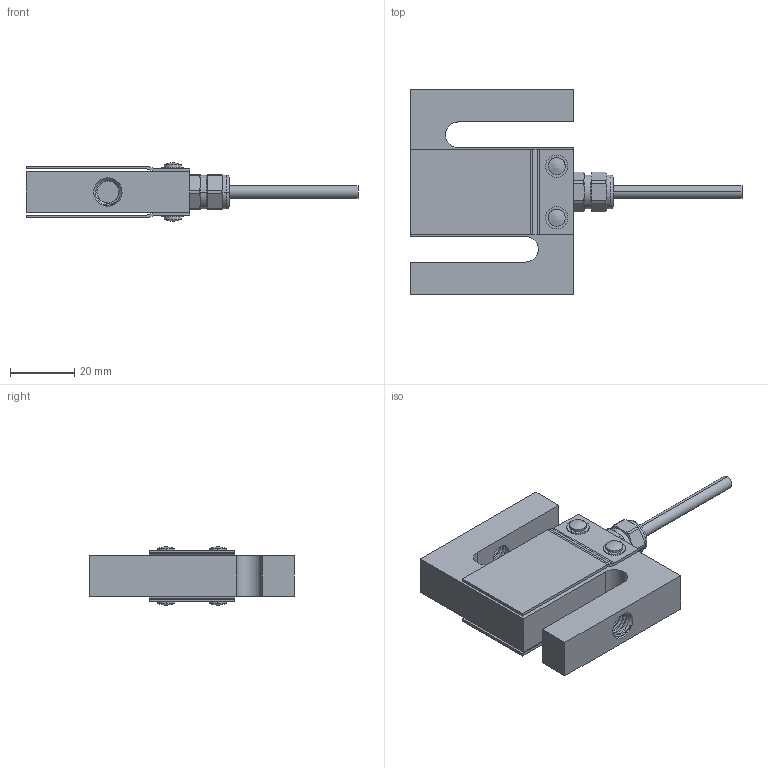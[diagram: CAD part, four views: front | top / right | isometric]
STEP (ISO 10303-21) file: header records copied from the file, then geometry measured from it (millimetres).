
FILE_DESCRIPTION (( 'STEP AP203' ), '1' );
FILE_NAME ('LCS09.STEP', '2024-11-28T08:20:47', ( '' ), ( '' ), 'SwSTEP 2.0', 'SolidWorks 2019', '' );
FILE_SCHEMA (( 'CONFIG_CONTROL_DESIGN' ));
Length unit declared in the file: millimetre
Products named in the file (1): LCS09
Bounding box: 103 x 63.5 x 18.15 mm (x, y, z)
Volume: 36478.7 mm3; surface area: 17530.8 mm2
Topology: 4 solids, 4 shells, 157 faces, 403 edges, 264 vertices
Faces by surface type: cylinder 79, plane 54, bspline 10, torus 8, cone 6
Entity records: 9586 total; most frequent: CARTESIAN_POINT 5869, ORIENTED_EDGE 806, DIRECTION 715, EDGE_CURVE 403, AXIS2_PLACEMENT_3D 264, VERTEX_POINT 264, VECTOR 187, LINE 187
